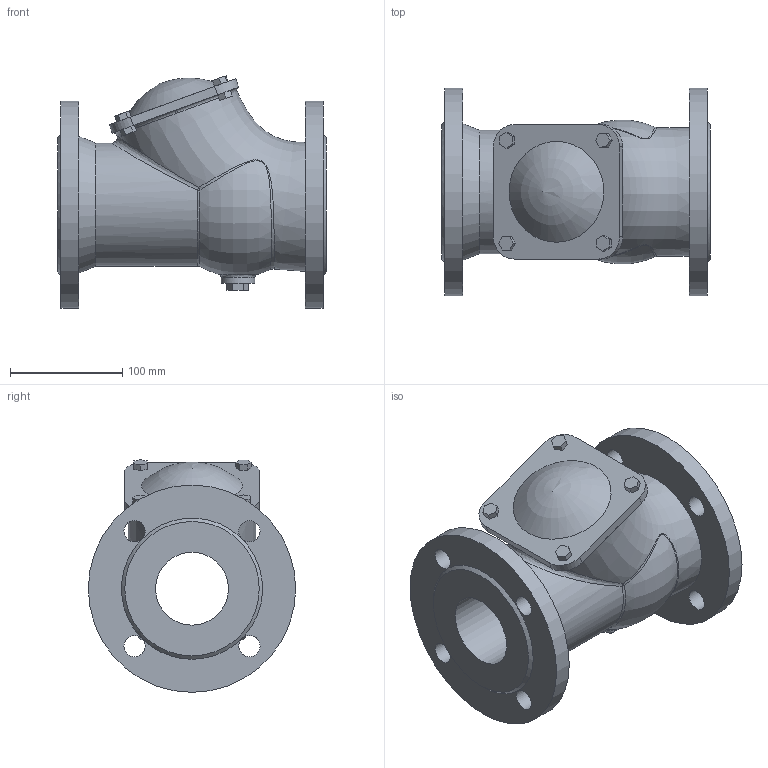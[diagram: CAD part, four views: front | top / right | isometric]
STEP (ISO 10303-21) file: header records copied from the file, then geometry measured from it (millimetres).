
FILE_DESCRIPTION(('STEP AP203'), '1');
FILE_NAME('抔黽鳧 012F.M DN65', '', ('UNSPECIFIED'), ('UNSPECIFIED'), 'ASCON STEP Converter 1.6', 'ASCON Math Kernel', '');
FILE_SCHEMA(('CONFIG_CONTROL_DESIGN'));
Length unit declared in the file: millimetre
Products named in the file (1): Клапан 012F.M DN65
Bounding box: 240 x 185 x 207.64 mm (x, y, z)
Volume: 2817427.5 mm3; surface area: 254071.1 mm2
Topology: 1 solids, 2 shells, 138 faces, 364 edges, 231 vertices
Faces by surface type: plane 88, cylinder 31, bspline 13, cone 3, torus 3
Full cylindrical faces by diameter (mm): 19 x8, 30 x1, 65 x1, 110 x1, 185 x2
Entity records: 11092 total; most frequent: CARTESIAN_POINT 6748, ORIENTED_EDGE 670, DIRECTION 585, EDGE_CURVE 338, VERTEX_POINT 226, LINE 205, VECTOR 205, AXIS2_PLACEMENT_3D 190
